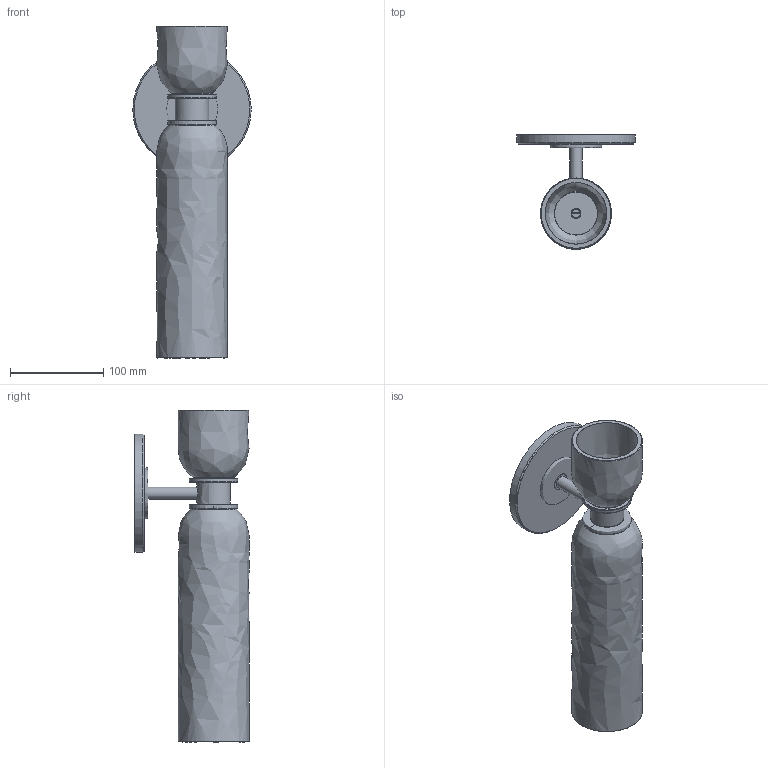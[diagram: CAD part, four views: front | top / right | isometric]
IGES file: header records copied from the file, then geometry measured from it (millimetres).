
Global section: file name: /Users/danielszollosi/Documents/SkLO/Sklo.com/3D models/WEB 3D Models/SkLO_AvroKO_UnionSconce_3D_LT630.igs; native system: Rhinoceros ( Dec  3 2024 ); preprocessor: Trout Lake IGES 012 Dec  3 2024; date: 250804.152813; units: millimetre
Bounding box: 126.94 x 122.5 x 356.48 mm (x, y, z)
Surface area: 226217.4 mm2 (no closed solid volume)
Topology: 0 solids, 0 shells, 113 faces, 1105 edges, 1033 vertices
Faces by surface type: bspline 113
